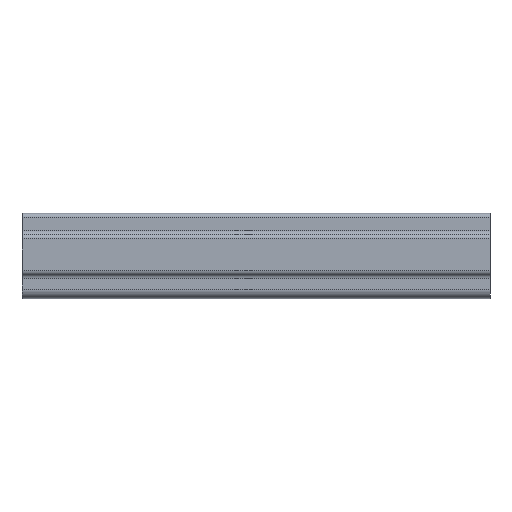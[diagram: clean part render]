
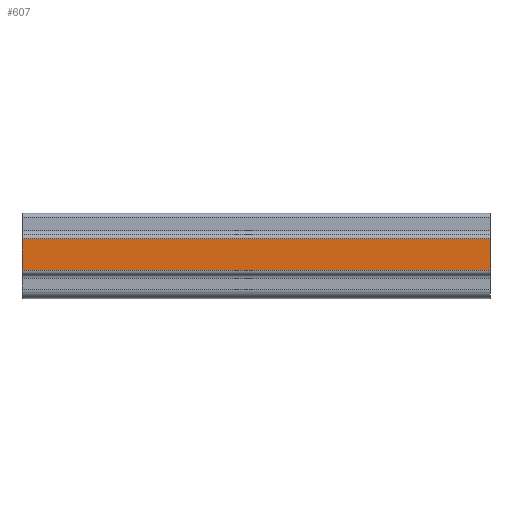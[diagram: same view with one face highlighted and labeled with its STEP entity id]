
A CAD part, front view. The second image highlights one B-rep face of the part: STEP entity #607.
In plain terms, the highlighted planar face has unit normal (0, -1, 0).
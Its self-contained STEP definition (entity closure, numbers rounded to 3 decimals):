
#70 = LINE ( 'NONE', #712, #2029 ) ;
#160 = CARTESIAN_POINT ( 'NONE',  ( -25., -3.5, 3.002 ) ) ;
#186 = ORIENTED_EDGE ( 'NONE', *, *, #682, .F. ) ;
#260 = DIRECTION ( 'NONE',  ( 0., 0., 1. ) ) ;
#267 = ORIENTED_EDGE ( 'NONE', *, *, #1925, .T. ) ;
#310 = ORIENTED_EDGE ( 'NONE', *, *, #1373, .T. ) ;
#401 = VECTOR ( 'NONE', #1127, 1000. ) ;
#457 = LINE ( 'NONE', #1615, #1356 ) ;
#491 = CARTESIAN_POINT ( 'NONE',  ( 25., -3.5, 6.391 ) ) ;
#581 = CARTESIAN_POINT ( 'NONE',  ( -25., -3.5, 3.002 ) ) ;
#607 = ADVANCED_FACE ( 'NONE', ( #941 ), #1096, .F. ) ;
#609 = LINE ( 'NONE', #1364, #705 ) ;
#642 = CARTESIAN_POINT ( 'NONE',  ( -25., -3.5, 6.391 ) ) ;
#664 = AXIS2_PLACEMENT_3D ( 'NONE', #581, #768, #260 ) ;
#682 = EDGE_CURVE ( 'NONE', #740, #1511, #989, .T. ) ;
#705 = VECTOR ( 'NONE', #1702, 1000. ) ;
#712 = CARTESIAN_POINT ( 'NONE',  ( 25., -3.5, 3.002 ) ) ;
#740 = VERTEX_POINT ( 'NONE', #642 ) ;
#768 = DIRECTION ( 'NONE',  ( 0., 1., 0. ) ) ;
#941 = FACE_OUTER_BOUND ( 'NONE', #1078, .T. ) ;
#989 = LINE ( 'NONE', #1291, #401 ) ;
#1007 = EDGE_CURVE ( 'NONE', #1461, #740, #609, .T. ) ;
#1078 = EDGE_LOOP ( 'NONE', ( #310, #186, #1894, #267 ) ) ;
#1096 = PLANE ( 'NONE',  #664 ) ;
#1127 = DIRECTION ( 'NONE',  ( 1., 0., 0. ) ) ;
#1158 = DIRECTION ( 'NONE',  ( 0., 0., 1. ) ) ;
#1241 = CARTESIAN_POINT ( 'NONE',  ( 25., -3.5, 3.002 ) ) ;
#1291 = CARTESIAN_POINT ( 'NONE',  ( -25., -3.5, 6.391 ) ) ;
#1356 = VECTOR ( 'NONE', #1738, 1000. ) ;
#1364 = CARTESIAN_POINT ( 'NONE',  ( -25., -3.5, 3.002 ) ) ;
#1373 = EDGE_CURVE ( 'NONE', #1782, #1511, #70, .T. ) ;
#1461 = VERTEX_POINT ( 'NONE', #160 ) ;
#1511 = VERTEX_POINT ( 'NONE', #491 ) ;
#1615 = CARTESIAN_POINT ( 'NONE',  ( -25., -3.5, 3.002 ) ) ;
#1702 = DIRECTION ( 'NONE',  ( 0., 0., 1. ) ) ;
#1738 = DIRECTION ( 'NONE',  ( 1., 0., 0. ) ) ;
#1782 = VERTEX_POINT ( 'NONE', #1241 ) ;
#1894 = ORIENTED_EDGE ( 'NONE', *, *, #1007, .F. ) ;
#1925 = EDGE_CURVE ( 'NONE', #1461, #1782, #457, .T. ) ;
#2029 = VECTOR ( 'NONE', #1158, 1000. ) ;
